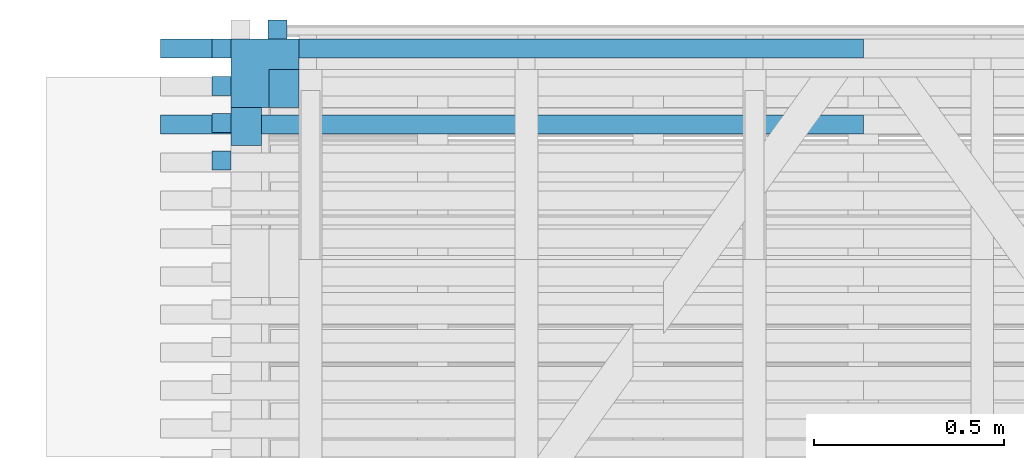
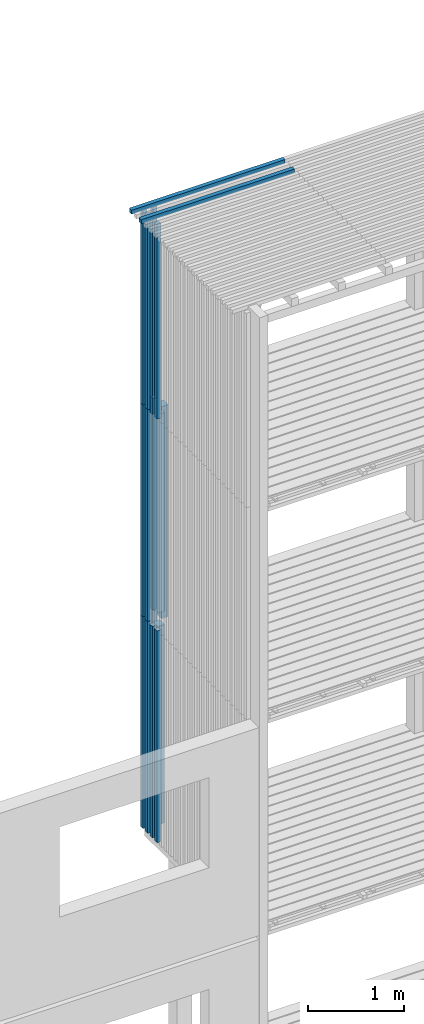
# One storey, part 14 of 182: 18 beams.
"""IFC2X3 building model written with IfcOpenShell, lengths in metres."""

from ifc_helpers import new_model, si_unit, frame, origin, place, context, project, spatial, faceted_brep, element, save


model = new_model("IFC2X3")

# Units and contexts
model_context = context("Model", 3, precision=1e-06, world=origin())
ifc_project = project(units=[si_unit("LENGTHUNIT", "METRE"), si_unit("PLANEANGLEUNIT", "RADIAN")], contexts=[model_context])

# Site, building, storey
site = spatial("IfcSite", under=ifc_project, CompositionType="ELEMENT")
building = spatial("IfcBuilding", under=site, CompositionType="ELEMENT")
storey = spatial("IfcBuildingStorey", under=building, Name="vs", CompositionType="ELEMENT", Elevation=-0.85)

# Beams
placement = place(None, origin())
beam_1_placement = place(placement, frame((3.289197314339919, 12.746895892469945, 2.575000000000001), z_axis=(1.0, 0.0, 0.0), x_axis=(0.0, 0.0, 1.0)))
element("IfcBeam", 1, at=beam_1_placement, inside=storey, Name="Bardage", context=model_context, shape_type="Brep", body=[
    faceted_brep([(2.699961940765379, -0.025000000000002, 0.025000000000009), (2.699961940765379, -0.025000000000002, -0.025000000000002), (2.699961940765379, 0.024999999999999, -0.025000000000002), (2.699961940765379, 0.024999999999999, 0.025000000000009), (0.0, -0.024999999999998, 0.025000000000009), (2.699961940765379, -0.025000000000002, 0.025000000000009), (2.699961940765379, 0.024999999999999, 0.025000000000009), (0.0, 0.024999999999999, 0.025000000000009), (0.0, -0.024999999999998, 0.025000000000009), (0.0, 0.024999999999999, 0.025000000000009), (0.0, 0.024999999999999, -0.025000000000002), (0.0, -0.024999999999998, -0.025000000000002), (0.0, -0.024999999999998, 0.025000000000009), (0.0, -0.024999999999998, -0.025000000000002), (2.699961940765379, -0.025000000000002, -0.025000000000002), (2.699961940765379, -0.025000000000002, 0.025000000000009), (0.0, -0.024999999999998, -0.025000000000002), (0.0, 0.024999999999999, -0.025000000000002), (2.699961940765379, 0.024999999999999, -0.025000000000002), (2.699961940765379, -0.025000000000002, -0.025000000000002), (0.0, 0.024999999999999, -0.025000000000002), (0.0, 0.024999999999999, 0.025000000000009), (2.699961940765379, 0.024999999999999, 0.025000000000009), (2.699961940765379, 0.024999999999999, -0.025000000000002)], [[[0, 1, 2, 3]], [[4, 5, 6, 7]], [[8, 9, 10, 11]], [[12, 13, 14, 15]], [[16, 17, 18, 19]], [[20, 21, 22, 23]]]),
])
beam_2_placement = place(placement, frame((3.354197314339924, 12.64007771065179, 2.746999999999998), z_axis=(0.0, -1.0, 0.0), x_axis=(0.0, 0.0, 1.0)))
element("IfcBeam", 2, at=beam_2_placement, inside=storey, Name="Support bardage", context=model_context, shape_type="Brep", body=[
    faceted_brep([(2.527961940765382, 0.039999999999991, 0.049999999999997), (2.527961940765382, -0.040000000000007, 0.049999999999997), (2.527961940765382, -0.040000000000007, -0.050000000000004), (2.527961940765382, 0.039999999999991, -0.050000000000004), (0.0, 0.039999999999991, 0.049999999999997), (2.527961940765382, 0.039999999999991, 0.049999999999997), (2.527961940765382, 0.039999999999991, -0.050000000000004), (0.0, 0.039999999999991, -0.050000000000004), (0.0, 0.039999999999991, 0.049999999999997), (0.0, 0.039999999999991, -0.050000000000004), (0.0, -0.040000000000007, -0.050000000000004), (0.0, -0.040000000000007, 0.049999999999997), (0.0, 0.039999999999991, 0.049999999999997), (0.0, -0.040000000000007, 0.049999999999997), (2.527961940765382, -0.040000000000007, 0.049999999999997), (2.527961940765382, 0.039999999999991, 0.049999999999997), (0.0, -0.040000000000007, 0.049999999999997), (0.0, -0.040000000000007, -0.050000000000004), (2.527961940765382, -0.040000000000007, -0.050000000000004), (2.527961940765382, -0.040000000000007, 0.049999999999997), (0.0, -0.040000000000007, -0.050000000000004), (0.0, 0.039999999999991, -0.050000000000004), (2.527961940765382, 0.039999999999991, -0.050000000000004), (2.527961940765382, -0.040000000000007, -0.050000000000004)], [[[0, 1, 2, 3]], [[4, 5, 6, 7]], [[8, 9, 10, 11]], [[12, 13, 14, 15]], [[16, 17, 18, 19]], [[20, 21, 22, 23]]]),
])
beam_3_placement = place(placement, frame((3.289197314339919, 12.648714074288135, 2.575000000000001), z_axis=(1.0, 0.0, 0.0), x_axis=(0.0, 0.0, 1.0)))
element("IfcBeam", 3, at=beam_3_placement, inside=storey, Name="Bardage", context=model_context, shape_type="Brep", body=[
    faceted_brep([(2.699961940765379, -0.024999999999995, 0.025000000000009), (2.699961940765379, -0.024999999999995, -0.025000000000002), (2.699961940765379, 0.025000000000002, -0.025000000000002), (2.699961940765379, 0.025000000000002, 0.025000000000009), (0.0, -0.024999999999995, 0.025000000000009), (2.699961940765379, -0.024999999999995, 0.025000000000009), (2.699961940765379, 0.025000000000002, 0.025000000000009), (0.0, 0.025000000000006, 0.025000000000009), (0.0, -0.024999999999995, 0.025000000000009), (0.0, 0.025000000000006, 0.025000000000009), (0.0, 0.025000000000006, -0.025000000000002), (0.0, -0.024999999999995, -0.025000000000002), (0.0, -0.024999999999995, 0.025000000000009), (0.0, -0.024999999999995, -0.025000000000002), (2.699961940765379, -0.024999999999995, -0.025000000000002), (2.699961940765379, -0.024999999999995, 0.025000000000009), (0.0, -0.024999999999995, -0.025000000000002), (0.0, 0.025000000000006, -0.025000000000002), (2.699961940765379, 0.025000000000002, -0.025000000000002), (2.699961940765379, -0.024999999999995, -0.025000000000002), (0.0, 0.025000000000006, -0.025000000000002), (0.0, 0.025000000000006, 0.025000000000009), (2.699961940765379, 0.025000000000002, 0.025000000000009), (2.699961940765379, 0.025000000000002, -0.025000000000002)], [[[0, 1, 2, 3]], [[4, 5, 6, 7]], [[8, 9, 10, 11]], [[12, 13, 14, 15]], [[16, 17, 18, 19]], [[20, 21, 22, 23]]]),
])
beam_4_placement = place(placement, frame((3.289197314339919, 12.746895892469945, 7.974999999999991), z_axis=(1.0, 0.0, 0.0), x_axis=(0.0, 0.0, 1.0)))
element("IfcBeam", 4, at=beam_4_placement, inside=storey, Name="Bardage", context=model_context, shape_type="Brep", body=[
    faceted_brep([(0.0, -0.024999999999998, 0.025000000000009), (0.0, 0.024999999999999, 0.025000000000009), (0.0, 0.024999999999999, -0.025000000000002), (0.0, -0.024999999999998, -0.025000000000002), (2.479999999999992, 0.024999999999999, -0.025000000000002), (2.479999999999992, 0.024999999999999, 0.025000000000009), (2.479999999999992, -0.025000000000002, 0.025000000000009), (2.479999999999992, -0.025000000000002, -0.025000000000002), (0.0, 0.024999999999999, 0.025000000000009), (0.0, -0.024999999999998, 0.025000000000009), (2.479999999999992, -0.025000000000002, 0.025000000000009), (2.479999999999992, 0.024999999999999, 0.025000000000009), (0.0, 0.024999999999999, -0.025000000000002), (0.0, 0.024999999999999, 0.025000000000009), (2.479999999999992, 0.024999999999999, 0.025000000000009), (2.479999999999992, 0.024999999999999, -0.025000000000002), (0.0, -0.024999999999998, -0.025000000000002), (0.0, 0.024999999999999, -0.025000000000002), (2.479999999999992, 0.024999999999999, -0.025000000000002), (2.479999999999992, -0.025000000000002, -0.025000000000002), (2.479999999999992, -0.025000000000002, 0.025000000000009), (0.0, -0.024999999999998, 0.025000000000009), (0.0, -0.024999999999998, -0.025000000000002), (2.479999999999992, -0.025000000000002, -0.025000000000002)], [[[0, 1, 2, 3]], [[4, 5, 6, 7]], [[8, 9, 10, 11]], [[12, 13, 14, 15]], [[16, 17, 18, 19]], [[20, 21, 22, 23]]]),
])
beam_5_placement = place(placement, frame((3.404197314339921, 12.780077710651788, 5.279999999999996), z_axis=(0.0, -1.0, 0.0), x_axis=(0.0, 0.0, 1.0)))
element("IfcBeam", 5, at=beam_5_placement, inside=storey, Name="Poteau", context=model_context, shape_type="Brep", body=[
    faceted_brep([(0.059999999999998, -0.010000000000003, -0.010000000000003), (0.059999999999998, -0.090000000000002, -0.009999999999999), (-1e-15, -0.090000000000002, -0.010000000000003), (-1e-15, -0.010000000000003, -0.010000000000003), (-1e-15, -0.010000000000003, 0.089999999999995), (-1e-15, -0.010000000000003, -0.010000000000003), (-1e-15, -0.090000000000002, -0.010000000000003), (-1e-15, -0.090000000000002, 0.089999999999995), (0.139999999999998, -0.010000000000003, -0.090000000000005), (0.139999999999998, -0.010000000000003, 0.089999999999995), (0.139999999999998, 0.089999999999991, 0.089999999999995), (0.139999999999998, 0.089999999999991, -0.090000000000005), (0.059999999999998, -0.090000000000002, -0.009999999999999), (0.059999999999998, -0.010000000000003, -0.010000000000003), (0.059999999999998, -0.010000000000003, -0.090000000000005), (0.059999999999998, -0.090000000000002, -0.090000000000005), (-1e-15, -0.010000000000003, -0.010000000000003), (-1e-15, -0.010000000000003, 0.089999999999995), (0.139999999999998, -0.010000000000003, 0.089999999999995), (0.139999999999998, -0.010000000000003, -0.090000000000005), (0.059999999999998, -0.010000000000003, -0.090000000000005), (0.059999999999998, -0.010000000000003, -0.010000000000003), (0.059999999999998, -0.090000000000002, -0.090000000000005), (0.059999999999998, -0.010000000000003, -0.090000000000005), (0.139999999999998, -0.010000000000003, -0.090000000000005), (0.139999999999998, 0.089999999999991, -0.090000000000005), (2.559999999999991, 0.089999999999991, -0.090000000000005), (2.559999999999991, -0.090000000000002, -0.090000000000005), (2.699999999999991, -0.090000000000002, -0.009999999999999), (2.699999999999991, -0.090000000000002, 0.089999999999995), (-1e-15, -0.090000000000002, 0.089999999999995), (-1e-15, -0.090000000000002, -0.010000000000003), (0.059999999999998, -0.090000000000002, -0.009999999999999), (0.059999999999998, -0.090000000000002, -0.090000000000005), (2.559999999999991, -0.090000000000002, -0.090000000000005), (2.559999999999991, -0.090000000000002, -0.009999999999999), (2.559999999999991, 0.089999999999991, -0.090000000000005), (0.139999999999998, 0.089999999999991, -0.090000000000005), (0.139999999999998, 0.089999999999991, 0.089999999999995), (2.559999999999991, 0.089999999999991, 0.089999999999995), (2.699999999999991, -0.010000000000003, 0.089999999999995), (2.559999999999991, -0.010000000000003, 0.089999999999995), (2.559999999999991, 0.089999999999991, 0.089999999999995), (0.139999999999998, 0.089999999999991, 0.089999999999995), (0.139999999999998, -0.010000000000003, 0.089999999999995), (-1e-15, -0.010000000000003, 0.089999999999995), (-1e-15, -0.090000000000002, 0.089999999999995), (2.699999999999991, -0.090000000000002, 0.089999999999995), (2.699999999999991, -0.090000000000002, -0.009999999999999), (2.559999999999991, -0.090000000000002, -0.009999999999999), (2.559999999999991, -0.010000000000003, -0.010000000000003), (2.699999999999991, -0.010000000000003, -0.009999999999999), (2.699999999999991, -0.010000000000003, 0.089999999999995), (2.699999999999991, -0.090000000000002, 0.089999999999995), (2.699999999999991, -0.090000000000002, -0.009999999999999), (2.699999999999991, -0.010000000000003, -0.009999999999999), (2.559999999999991, -0.010000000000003, 0.089999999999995), (2.699999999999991, -0.010000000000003, 0.089999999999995), (2.699999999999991, -0.010000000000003, -0.009999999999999), (2.559999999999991, -0.010000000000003, -0.010000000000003), (2.559999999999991, 0.089999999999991, -0.090000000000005), (2.559999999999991, 0.089999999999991, 0.089999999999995), (2.559999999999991, -0.010000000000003, 0.089999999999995), (2.559999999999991, -0.010000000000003, -0.010000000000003), (2.559999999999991, -0.090000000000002, -0.009999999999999), (2.559999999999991, -0.090000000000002, -0.090000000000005)], [[[0, 1, 2, 3]], [[4, 5, 6, 7]], [[8, 9, 10, 11]], [[12, 13, 14, 15]], [[16, 17, 18, 19, 20, 21]], [[22, 23, 24, 25, 26, 27]], [[28, 29, 30, 31, 32, 33, 34, 35]], [[36, 37, 38, 39]], [[40, 41, 42, 43, 44, 45, 46, 47]], [[48, 49, 50, 51]], [[52, 53, 54, 55]], [[56, 57, 58, 59]], [[60, 61, 62, 63, 64, 65]]]),
])
beam_6_placement = place(placement, frame((3.437379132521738, 12.895077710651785, 5.274999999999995), z_axis=(0.0, -1.0, 0.0), x_axis=(0.0, 0.0, 1.0)))
element("IfcBeam", 6, at=beam_6_placement, inside=storey, Name="Bardage", context=model_context, shape_type="Brep", body=[
    faceted_brep([(1e-15, -0.025000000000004, 0.024999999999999), (1e-15, 0.024999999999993, 0.025000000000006), (1e-15, 0.025000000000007, -0.024999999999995), (1e-15, -0.025000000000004, -0.025000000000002), (2.699999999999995, -0.025000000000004, -0.025000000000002), (2.699999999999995, 0.025000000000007, -0.024999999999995), (2.699999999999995, 0.024999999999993, 0.025000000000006), (2.699999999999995, -0.025000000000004, 0.024999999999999), (1e-15, -0.025000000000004, 0.024999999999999), (1e-15, -0.025000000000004, -0.025000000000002), (2.699999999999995, -0.025000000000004, -0.025000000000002), (2.699999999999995, -0.025000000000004, 0.024999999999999), (2.699999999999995, -0.025000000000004, -0.025000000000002), (1e-15, -0.025000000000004, -0.025000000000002), (1e-15, 0.025000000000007, -0.024999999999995), (2.699999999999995, 0.025000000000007, -0.024999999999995), (2.699999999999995, 0.025000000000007, -0.024999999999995), (1e-15, 0.025000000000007, -0.024999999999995), (1e-15, 0.024999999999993, 0.025000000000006), (2.699999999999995, 0.024999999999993, 0.025000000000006), (2.699999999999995, 0.024999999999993, 0.025000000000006), (1e-15, 0.024999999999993, 0.025000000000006), (1e-15, -0.025000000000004, 0.024999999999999), (2.699999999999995, -0.025000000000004, 0.024999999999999)], [[[0, 1, 2, 3]], [[4, 5, 6, 7]], [[8, 9, 10, 11]], [[12, 13, 14, 15]], [[16, 17, 18, 19]], [[20, 21, 22, 23]]]),
])
beam_7_placement = place(placement, frame((3.289197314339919, 12.550532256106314, 2.575000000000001), z_axis=(1.0, 0.0, 0.0), x_axis=(0.0, 0.0, 1.0)))
element("IfcBeam", 7, at=beam_7_placement, inside=storey, Name="Bardage", context=model_context, shape_type="Brep", body=[
    faceted_brep([(2.699961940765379, -0.025000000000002, 0.025000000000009), (2.699961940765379, -0.025000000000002, -0.025000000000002), (2.699961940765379, 0.025000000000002, -0.025000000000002), (2.699961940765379, 0.025000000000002, 0.025000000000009), (0.0, -0.025000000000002, 0.025000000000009), (2.699961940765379, -0.025000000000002, 0.025000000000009), (2.699961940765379, 0.025000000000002, 0.025000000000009), (0.0, 0.025000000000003, 0.025000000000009), (0.0, -0.025000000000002, 0.025000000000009), (0.0, 0.025000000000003, 0.025000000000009), (0.0, 0.025000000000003, -0.025000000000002), (0.0, -0.025000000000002, -0.025000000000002), (0.0, -0.025000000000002, 0.025000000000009), (0.0, -0.025000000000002, -0.025000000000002), (2.699961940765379, -0.025000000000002, -0.025000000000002), (2.699961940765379, -0.025000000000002, 0.025000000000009), (0.0, -0.025000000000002, -0.025000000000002), (0.0, 0.025000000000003, -0.025000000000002), (2.699961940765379, 0.025000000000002, -0.025000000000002), (2.699961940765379, -0.025000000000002, -0.025000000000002), (0.0, 0.025000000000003, -0.025000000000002), (0.0, 0.025000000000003, 0.025000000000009), (2.699961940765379, 0.025000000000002, 0.025000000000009), (2.699961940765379, 0.025000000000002, -0.025000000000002)], [[[0, 1, 2, 3]], [[4, 5, 6, 7]], [[8, 9, 10, 11]], [[12, 13, 14, 15]], [[16, 17, 18, 19]], [[20, 21, 22, 23]]]),
])
beam_8_placement = place(placement, frame((4.979197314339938, 12.84507771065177, 10.47999999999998), z_axis=(0.0, 0.0, 1.0), x_axis=(-1.0, 0.0, 0.0)))
element("IfcBeam", 8, at=beam_8_placement, inside=storey, Name="Bardage", context=model_context, shape_type="Brep", body=[
    faceted_brep([(1.850000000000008, -0.024999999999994, -0.024999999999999), (1.850000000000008, -0.024999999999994, 0.025000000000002), (-1e-15, -0.024999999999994, 0.025000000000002), (-1e-15, -0.024999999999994, -0.024999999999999), (1.850000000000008, -0.024999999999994, 0.025000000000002), (1.850000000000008, -0.024999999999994, -0.024999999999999), (1.850000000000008, 0.025000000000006, -0.024999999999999), (1.850000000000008, 0.025000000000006, 0.025000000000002), (1.850000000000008, 0.025000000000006, -0.024999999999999), (1.850000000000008, -0.024999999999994, -0.024999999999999), (-1e-15, -0.024999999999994, -0.024999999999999), (-1e-15, 0.025000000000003, -0.024999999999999), (1.850000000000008, 0.025000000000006, 0.025000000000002), (1.850000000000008, 0.025000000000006, -0.024999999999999), (-1e-15, 0.025000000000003, -0.024999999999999), (-1e-15, 0.025000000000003, 0.025000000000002), (-1e-15, -0.024999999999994, 0.025000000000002), (1.850000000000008, -0.024999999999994, 0.025000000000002), (1.850000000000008, 0.025000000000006, 0.025000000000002), (-1e-15, 0.025000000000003, 0.025000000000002), (-1e-15, -0.024999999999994, -0.024999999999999), (-1e-15, -0.024999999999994, 0.025000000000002), (-1e-15, 0.025000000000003, 0.025000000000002), (-1e-15, 0.025000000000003, -0.024999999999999)], [[[0, 1, 2, 3]], [[4, 5, 6, 7]], [[8, 9, 10, 11]], [[12, 13, 14, 15]], [[16, 17, 18, 19]], [[20, 21, 22, 23]]]),
])
beam_9_placement = place(placement, frame((3.437379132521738, 12.895077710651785, 2.575000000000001), z_axis=(0.0, -1.0, 0.0), x_axis=(0.0, 0.0, 1.0)))
element("IfcBeam", 9, at=beam_9_placement, inside=storey, Name="Bardage", context=model_context, shape_type="Brep", body=[
    faceted_brep([(0.0, -0.025000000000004, 0.024999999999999), (0.0, 0.024999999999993, 0.025000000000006), (0.0, 0.025000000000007, -0.024999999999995), (0.0, -0.025000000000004, -0.025000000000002), (2.699961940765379, 0.025000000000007, -0.024999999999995), (2.699961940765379, 0.024999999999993, 0.025000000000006), (2.699961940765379, -0.025000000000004, 0.024999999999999), (2.699961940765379, -0.025000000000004, -0.025000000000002), (0.0, -0.025000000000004, -0.025000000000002), (0.0, 0.025000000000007, -0.024999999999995), (2.699961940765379, 0.025000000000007, -0.024999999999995), (2.699961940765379, -0.025000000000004, -0.025000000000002), (2.699961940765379, 0.025000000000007, -0.024999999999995), (0.0, 0.025000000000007, -0.024999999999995), (0.0, 0.024999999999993, 0.025000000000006), (2.699961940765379, 0.024999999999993, 0.025000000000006), (2.699961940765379, 0.024999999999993, 0.025000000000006), (0.0, 0.024999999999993, 0.025000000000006), (0.0, -0.025000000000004, 0.024999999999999), (2.699961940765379, -0.025000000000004, 0.024999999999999), (2.699961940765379, -0.025000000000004, 0.024999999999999), (0.0, -0.025000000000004, 0.024999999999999), (0.0, -0.025000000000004, -0.025000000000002), (2.699961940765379, -0.025000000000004, -0.025000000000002)], [[[0, 1, 2, 3]], [[4, 5, 6, 7]], [[8, 9, 10, 11]], [[12, 13, 14, 15]], [[16, 17, 18, 19]], [[20, 21, 22, 23]]]),
])
beam_10_placement = place(placement, frame((3.437379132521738, 12.895077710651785, 7.974999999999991), z_axis=(0.0, -1.0, 0.0), x_axis=(0.0, 0.0, 1.0)))
element("IfcBeam", 10, at=beam_10_placement, inside=storey, Name="Bardage", context=model_context, shape_type="Brep", body=[
    faceted_brep([(2.479999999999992, -0.025000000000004, 0.024999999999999), (2.479999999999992, -0.025000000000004, -0.024999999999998), (2.479999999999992, 0.025000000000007, -0.024999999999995), (2.479999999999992, 0.024999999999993, 0.025000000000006), (0.0, 0.024999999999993, 0.025000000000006), (0.0, -0.025000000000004, 0.024999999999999), (2.479999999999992, -0.025000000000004, 0.024999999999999), (2.479999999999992, 0.024999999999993, 0.025000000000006), (0.0, -0.025000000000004, 0.024999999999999), (0.0, 0.024999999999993, 0.025000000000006), (0.0, 0.025000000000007, -0.024999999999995), (0.0, -0.025000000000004, -0.025000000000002), (0.0, 0.025000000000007, -0.024999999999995), (0.0, 0.024999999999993, 0.025000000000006), (2.479999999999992, 0.024999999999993, 0.025000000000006), (2.479999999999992, 0.025000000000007, -0.024999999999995), (0.0, -0.025000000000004, -0.025000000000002), (0.0, 0.025000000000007, -0.024999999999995), (2.479999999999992, 0.025000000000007, -0.024999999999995), (2.479999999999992, -0.025000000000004, -0.024999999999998), (2.479999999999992, -0.025000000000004, 0.024999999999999), (0.0, -0.025000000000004, 0.024999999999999), (0.0, -0.025000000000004, -0.025000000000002), (2.479999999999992, -0.025000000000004, -0.024999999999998)], [[[0, 1, 2, 3]], [[4, 5, 6, 7]], [[8, 9, 10, 11]], [[12, 13, 14, 15]], [[16, 17, 18, 19]], [[20, 21, 22, 23]]]),
])
beam_11_placement = place(placement, frame((3.289197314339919, 12.845077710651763, 7.974999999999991), z_axis=(1.0, 0.0, 0.0), x_axis=(0.0, 3e-15, 1.0)))
element("IfcBeam", 11, at=beam_11_placement, inside=storey, Name="Bardage", context=model_context, shape_type="Brep", body=[
    faceted_brep([(0.0, -0.025000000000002, 0.025000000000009), (-1e-15, 0.025000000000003, 0.025000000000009), (-1e-15, 0.025000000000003, -0.025000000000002), (0.0, -0.025000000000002, -0.025000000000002), (2.479999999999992, 0.02500000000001, -0.025000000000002), (2.479999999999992, 0.02500000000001, 0.025000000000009), (2.479999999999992, -0.024999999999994, 0.025000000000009), (2.479999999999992, -0.024999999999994, -0.025000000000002), (-1e-15, 0.025000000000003, 0.025000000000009), (0.0, -0.025000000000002, 0.025000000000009), (2.479999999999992, -0.024999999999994, 0.025000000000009), (2.479999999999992, 0.02500000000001, 0.025000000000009), (-1e-15, 0.025000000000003, -0.025000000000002), (-1e-15, 0.025000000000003, 0.025000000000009), (2.479999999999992, 0.02500000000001, 0.025000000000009), (2.479999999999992, 0.02500000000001, -0.025000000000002), (0.0, -0.025000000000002, -0.025000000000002), (-1e-15, 0.025000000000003, -0.025000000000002), (2.479999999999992, 0.02500000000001, -0.025000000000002), (2.479999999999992, -0.024999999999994, -0.025000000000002), (2.479999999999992, -0.024999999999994, 0.025000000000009), (0.0, -0.025000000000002, 0.025000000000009), (0.0, -0.025000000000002, -0.025000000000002), (2.479999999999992, -0.024999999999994, -0.025000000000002)], [[[0, 1, 2, 3]], [[4, 5, 6, 7]], [[8, 9, 10, 11]], [[12, 13, 14, 15]], [[16, 17, 18, 19]], [[20, 21, 22, 23]]]),
])
beam_12_placement = place(placement, frame((3.289197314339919, 12.648714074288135, 7.974999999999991), z_axis=(1.0, 0.0, 0.0), x_axis=(0.0, 0.0, 1.0)))
element("IfcBeam", 12, at=beam_12_placement, inside=storey, Name="Bardage", context=model_context, shape_type="Brep", body=[
    faceted_brep([(0.0, -0.024999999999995, 0.025000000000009), (0.0, 0.025000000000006, 0.025000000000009), (0.0, 0.025000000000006, -0.025000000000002), (0.0, -0.024999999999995, -0.025000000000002), (2.479999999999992, 0.025000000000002, -0.025000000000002), (2.479999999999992, 0.025000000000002, 0.025000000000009), (2.479999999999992, -0.024999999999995, 0.025000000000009), (2.479999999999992, -0.024999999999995, -0.025000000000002), (0.0, 0.025000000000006, 0.025000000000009), (0.0, -0.024999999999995, 0.025000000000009), (2.479999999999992, -0.024999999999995, 0.025000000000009), (2.479999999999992, 0.025000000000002, 0.025000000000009), (0.0, 0.025000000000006, -0.025000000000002), (0.0, 0.025000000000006, 0.025000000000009), (2.479999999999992, 0.025000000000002, 0.025000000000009), (2.479999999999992, 0.025000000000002, -0.025000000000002), (0.0, -0.024999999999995, -0.025000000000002), (0.0, 0.025000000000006, -0.025000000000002), (2.479999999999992, 0.025000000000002, -0.025000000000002), (2.479999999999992, -0.024999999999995, -0.025000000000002), (2.479999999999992, -0.024999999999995, 0.025000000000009), (0.0, -0.024999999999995, 0.025000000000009), (0.0, -0.024999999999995, -0.025000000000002), (2.479999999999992, -0.024999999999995, -0.025000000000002)], [[[0, 1, 2, 3]], [[4, 5, 6, 7]], [[8, 9, 10, 11]], [[12, 13, 14, 15]], [[16, 17, 18, 19]], [[20, 21, 22, 23]]]),
])
beam_13_placement = place(placement, frame((3.289197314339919, 12.550532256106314, 7.974999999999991), z_axis=(1.0, 0.0, 0.0), x_axis=(0.0, 0.0, 1.0)))
element("IfcBeam", 13, at=beam_13_placement, inside=storey, Name="Bardage", context=model_context, shape_type="Brep", body=[
    faceted_brep([(0.0, -0.025000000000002, 0.025000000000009), (0.0, 0.025000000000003, 0.025000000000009), (0.0, 0.025000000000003, -0.025000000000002), (0.0, -0.025000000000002, -0.025000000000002), (2.479999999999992, 0.025000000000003, -0.025000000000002), (2.479999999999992, 0.025000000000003, 0.025000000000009), (2.479999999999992, -0.025000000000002, 0.025000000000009), (2.479999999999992, -0.025000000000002, -0.025000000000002), (0.0, 0.025000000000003, 0.025000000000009), (0.0, -0.025000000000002, 0.025000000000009), (2.479999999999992, -0.025000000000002, 0.025000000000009), (2.479999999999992, 0.025000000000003, 0.025000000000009), (0.0, 0.025000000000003, -0.025000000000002), (0.0, 0.025000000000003, 0.025000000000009), (2.479999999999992, 0.025000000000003, 0.025000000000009), (2.479999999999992, 0.025000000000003, -0.025000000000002), (0.0, -0.025000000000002, -0.025000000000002), (0.0, 0.025000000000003, -0.025000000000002), (2.479999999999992, 0.025000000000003, -0.025000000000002), (2.479999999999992, -0.025000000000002, -0.025000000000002), (2.479999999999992, -0.025000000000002, 0.025000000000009), (0.0, -0.025000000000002, 0.025000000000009), (0.0, -0.025000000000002, -0.025000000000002), (2.479999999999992, -0.025000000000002, -0.025000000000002)], [[[0, 1, 2, 3]], [[4, 5, 6, 7]], [[8, 9, 10, 11]], [[12, 13, 14, 15]], [[16, 17, 18, 19]], [[20, 21, 22, 23]]]),
])
beam_14_placement = place(placement, frame((3.289197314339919, 12.845077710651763, 5.274999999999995), z_axis=(1.0, 0.0, 0.0), x_axis=(0.0, 3e-15, 1.0)))
element("IfcBeam", 14, at=beam_14_placement, inside=storey, Name="Bardage", context=model_context, shape_type="Brep", body=[
    faceted_brep([(2.699999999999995, 0.02500000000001, 0.025000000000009), (2.699999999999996, -0.024999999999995, 0.025000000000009), (2.699999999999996, -0.024999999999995, -0.025000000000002), (2.699999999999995, 0.02500000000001, -0.025000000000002), (1e-15, 0.025000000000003, 0.025000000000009), (2.699999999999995, 0.02500000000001, 0.025000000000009), (2.699999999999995, 0.02500000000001, -0.025000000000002), (1e-15, 0.025000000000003, -0.025000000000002), (2e-15, -0.025000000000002, 0.025000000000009), (1e-15, 0.025000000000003, 0.025000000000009), (1e-15, 0.025000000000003, -0.025000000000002), (2e-15, -0.025000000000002, -0.025000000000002), (1e-15, 0.025000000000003, 0.025000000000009), (2e-15, -0.025000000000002, 0.025000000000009), (2.699999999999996, -0.024999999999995, 0.025000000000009), (2.699999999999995, 0.02500000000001, 0.025000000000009), (2e-15, -0.025000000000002, 0.025000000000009), (2e-15, -0.025000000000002, -0.025000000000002), (2.699999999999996, -0.024999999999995, -0.025000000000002), (2.699999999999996, -0.024999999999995, 0.025000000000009), (2e-15, -0.025000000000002, -0.025000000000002), (1e-15, 0.025000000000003, -0.025000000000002), (2.699999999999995, 0.02500000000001, -0.025000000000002), (2.699999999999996, -0.024999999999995, -0.025000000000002)], [[[0, 1, 2, 3]], [[4, 5, 6, 7]], [[8, 9, 10, 11]], [[12, 13, 14, 15]], [[16, 17, 18, 19]], [[20, 21, 22, 23]]]),
])
beam_15_placement = place(placement, frame((4.979197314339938, 12.645077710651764, 10.47999999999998), z_axis=(0.0, 0.0, 1.0), x_axis=(-1.0, 0.0, 0.0)))
element("IfcBeam", 15, at=beam_15_placement, inside=storey, Name="Bardage", context=model_context, shape_type="Brep", body=[
    faceted_brep([(1.850000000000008, -0.024999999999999, -0.024999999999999), (1.850000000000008, -0.024999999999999, 0.025000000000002), (-1e-15, -0.025000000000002, 0.025000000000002), (-1e-15, -0.025000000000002, -0.024999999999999), (1.850000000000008, -0.024999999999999, 0.025000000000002), (1.850000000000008, -0.024999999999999, -0.024999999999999), (1.850000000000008, 0.024999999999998, -0.024999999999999), (1.850000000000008, 0.024999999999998, 0.025000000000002), (1.850000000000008, 0.024999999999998, -0.024999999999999), (1.850000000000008, -0.024999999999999, -0.024999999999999), (-1e-15, -0.025000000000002, -0.024999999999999), (-1e-15, 0.024999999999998, -0.024999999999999), (1.850000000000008, 0.024999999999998, 0.025000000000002), (1.850000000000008, 0.024999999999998, -0.024999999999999), (-1e-15, 0.024999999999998, -0.024999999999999), (-1e-15, 0.024999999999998, 0.025000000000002), (-1e-15, -0.025000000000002, 0.025000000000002), (1.850000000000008, -0.024999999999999, 0.025000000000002), (1.850000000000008, 0.024999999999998, 0.025000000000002), (-1e-15, 0.024999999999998, 0.025000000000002), (-1e-15, -0.025000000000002, -0.024999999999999), (-1e-15, -0.025000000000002, 0.025000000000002), (-1e-15, 0.024999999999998, 0.025000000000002), (-1e-15, 0.024999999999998, -0.024999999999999)], [[[0, 1, 2, 3]], [[4, 5, 6, 7]], [[8, 9, 10, 11]], [[12, 13, 14, 15]], [[16, 17, 18, 19]], [[20, 21, 22, 23]]]),
])
beam_16_placement = place(placement, frame((3.289197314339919, 12.746895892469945, 5.274999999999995), z_axis=(1.0, 0.0, 0.0), x_axis=(0.0, 0.0, 1.0)))
element("IfcBeam", 16, at=beam_16_placement, inside=storey, Name="Bardage", context=model_context, shape_type="Brep", body=[
    faceted_brep([(2.699999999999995, 0.024999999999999, 0.025000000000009), (2.699999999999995, -0.025000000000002, 0.025000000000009), (2.699999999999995, -0.025000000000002, -0.025000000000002), (2.699999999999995, 0.024999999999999, -0.025000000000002), (1e-15, 0.024999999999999, 0.025000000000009), (2.699999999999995, 0.024999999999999, 0.025000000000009), (2.699999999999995, 0.024999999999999, -0.025000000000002), (1e-15, 0.024999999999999, -0.025000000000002), (1e-15, -0.024999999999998, 0.025000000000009), (1e-15, 0.024999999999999, 0.025000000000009), (1e-15, 0.024999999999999, -0.025000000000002), (1e-15, -0.024999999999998, -0.025000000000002), (1e-15, 0.024999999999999, 0.025000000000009), (1e-15, -0.024999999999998, 0.025000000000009), (2.699999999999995, -0.025000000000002, 0.025000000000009), (2.699999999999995, 0.024999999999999, 0.025000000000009), (1e-15, -0.024999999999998, 0.025000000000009), (1e-15, -0.024999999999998, -0.025000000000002), (2.699999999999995, -0.025000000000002, -0.025000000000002), (2.699999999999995, -0.025000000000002, 0.025000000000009), (1e-15, -0.024999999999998, -0.025000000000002), (1e-15, 0.024999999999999, -0.025000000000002), (2.699999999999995, 0.024999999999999, -0.025000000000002), (2.699999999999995, -0.025000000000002, -0.025000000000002)], [[[0, 1, 2, 3]], [[4, 5, 6, 7]], [[8, 9, 10, 11]], [[12, 13, 14, 15]], [[16, 17, 18, 19]], [[20, 21, 22, 23]]]),
])
beam_17_placement = place(placement, frame((3.289197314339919, 12.845077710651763, 2.575000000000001), z_axis=(1.0, 0.0, 0.0), x_axis=(0.0, 3e-15, 1.0)))
element("IfcBeam", 17, at=beam_17_placement, inside=storey, Name="Bardage", context=model_context, shape_type="Brep", body=[
    faceted_brep([(2.699961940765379, -0.024999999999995, 0.025000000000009), (2.699961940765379, -0.024999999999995, -0.025000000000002), (2.699961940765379, 0.02500000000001, -0.025000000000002), (2.699961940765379, 0.02500000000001, 0.025000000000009), (0.0, -0.025000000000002, 0.025000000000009), (2.699961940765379, -0.024999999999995, 0.025000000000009), (2.699961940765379, 0.02500000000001, 0.025000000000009), (0.0, 0.025000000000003, 0.025000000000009), (0.0, -0.025000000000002, 0.025000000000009), (0.0, 0.025000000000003, 0.025000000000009), (0.0, 0.025000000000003, -0.025000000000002), (0.0, -0.025000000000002, -0.025000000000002), (0.0, -0.025000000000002, 0.025000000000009), (0.0, -0.025000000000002, -0.025000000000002), (2.699961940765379, -0.024999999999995, -0.025000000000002), (2.699961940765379, -0.024999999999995, 0.025000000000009), (0.0, -0.025000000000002, -0.025000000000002), (0.0, 0.025000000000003, -0.025000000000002), (2.699961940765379, 0.02500000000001, -0.025000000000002), (2.699961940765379, -0.024999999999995, -0.025000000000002), (0.0, 0.025000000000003, -0.025000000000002), (0.0, 0.025000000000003, 0.025000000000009), (2.699961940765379, 0.02500000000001, 0.025000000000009), (2.699961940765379, 0.02500000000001, -0.025000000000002)], [[[0, 1, 2, 3]], [[4, 5, 6, 7]], [[8, 9, 10, 11]], [[12, 13, 14, 15]], [[16, 17, 18, 19]], [[20, 21, 22, 23]]]),
])
beam_18_placement = place(placement, frame((3.354197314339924, 12.64007771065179, 5.446999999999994), z_axis=(0.0, -1.0, 0.0), x_axis=(0.0, 0.0, 1.0)))
element("IfcBeam", 18, at=beam_18_placement, inside=storey, Name="Support bardage", context=model_context, shape_type="Brep", body=[
    faceted_brep([(2.527999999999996, 0.039999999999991, -0.050000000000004), (2.527999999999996, 0.039999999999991, 0.049999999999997), (2.527999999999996, -0.040000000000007, 0.049999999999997), (2.527999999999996, -0.040000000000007, -0.050000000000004), (-1e-15, 0.039999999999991, -0.050000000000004), (2.527999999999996, 0.039999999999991, -0.050000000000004), (2.527999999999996, -0.040000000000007, -0.050000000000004), (-1e-15, -0.040000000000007, -0.050000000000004), (-1e-15, 0.039999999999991, -0.050000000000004), (-1e-15, -0.040000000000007, -0.050000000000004), (-1e-15, -0.040000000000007, 0.049999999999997), (-1e-15, 0.039999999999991, 0.049999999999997), (-1e-15, 0.039999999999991, -0.050000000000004), (-1e-15, 0.039999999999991, 0.049999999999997), (2.527999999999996, 0.039999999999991, 0.049999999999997), (2.527999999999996, 0.039999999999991, -0.050000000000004), (-1e-15, 0.039999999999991, 0.049999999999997), (-1e-15, -0.040000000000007, 0.049999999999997), (2.527999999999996, -0.040000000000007, 0.049999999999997), (2.527999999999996, 0.039999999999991, 0.049999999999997), (-1e-15, -0.040000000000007, 0.049999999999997), (-1e-15, -0.040000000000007, -0.050000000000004), (2.527999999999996, -0.040000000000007, -0.050000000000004), (2.527999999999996, -0.040000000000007, 0.049999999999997)], [[[0, 1, 2, 3]], [[4, 5, 6, 7]], [[8, 9, 10, 11]], [[12, 13, 14, 15]], [[16, 17, 18, 19]], [[20, 21, 22, 23]]]),
])

save(model, "model.ifc")
